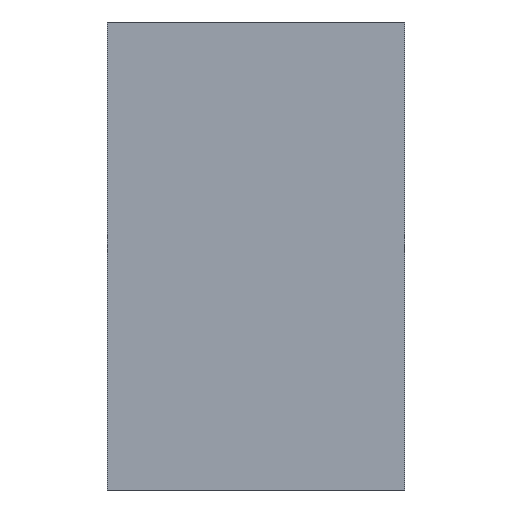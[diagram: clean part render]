
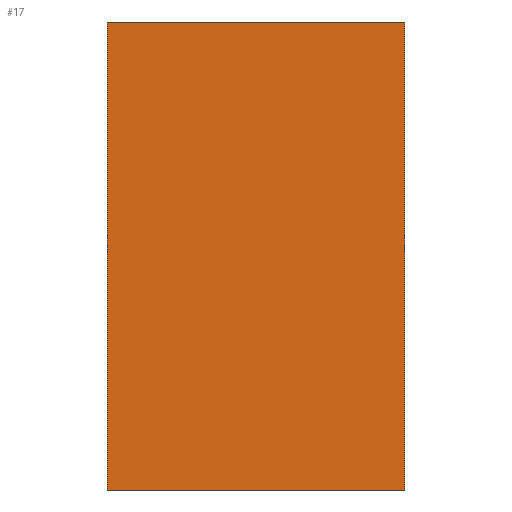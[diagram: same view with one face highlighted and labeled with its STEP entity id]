
A CAD part, left-side view. The second image highlights one B-rep face of the part: STEP entity #17.
In plain terms, the highlighted planar face has unit normal (-1, 0, 0).
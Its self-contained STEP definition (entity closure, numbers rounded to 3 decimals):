
#17 = ADVANCED_FACE('',(#18),#32,.F.);
#18 = FACE_BOUND('',#19,.F.);
#19 = EDGE_LOOP('',(#20,#55,#83,#111));
#20 = ORIENTED_EDGE('',*,*,#21,.F.);
#21 = EDGE_CURVE('',#22,#24,#26,.T.);
#22 = VERTEX_POINT('',#23);
#23 = CARTESIAN_POINT('',(-14.,-7.,-2.));
#24 = VERTEX_POINT('',#25);
#25 = CARTESIAN_POINT('',(-14.,-7.,20.));
#26 = SURFACE_CURVE('',#27,(#31,#43),.PCURVE_S1.);
#27 = LINE('',#28,#29);
#28 = CARTESIAN_POINT('',(-14.,-7.,-2.));
#29 = VECTOR('',#30,1.);
#30 = DIRECTION('',(0.,0.,1.));
#31 = PCURVE('',#32,#37);
#32 = PLANE('',#33);
#33 = AXIS2_PLACEMENT_3D('',#34,#35,#36);
#34 = CARTESIAN_POINT('',(-14.,-7.,-2.));
#35 = DIRECTION('',(1.,0.,0.));
#36 = DIRECTION('',(0.,0.,1.));
#37 = DEFINITIONAL_REPRESENTATION('',(#38),#42);
#38 = LINE('',#39,#40);
#39 = CARTESIAN_POINT('',(0.,0.));
#40 = VECTOR('',#41,1.);
#41 = DIRECTION('',(1.,0.));
#42 = ( GEOMETRIC_REPRESENTATION_CONTEXT(2) 
PARAMETRIC_REPRESENTATION_CONTEXT() REPRESENTATION_CONTEXT('2D SPACE',''
  ) );
#43 = PCURVE('',#44,#49);
#44 = PLANE('',#45);
#45 = AXIS2_PLACEMENT_3D('',#46,#47,#48);
#46 = CARTESIAN_POINT('',(-14.,-7.,-2.));
#47 = DIRECTION('',(0.,1.,0.));
#48 = DIRECTION('',(0.,0.,1.));
#49 = DEFINITIONAL_REPRESENTATION('',(#50),#54);
#50 = LINE('',#51,#52);
#51 = CARTESIAN_POINT('',(0.,0.));
#52 = VECTOR('',#53,1.);
#53 = DIRECTION('',(1.,0.));
#54 = ( GEOMETRIC_REPRESENTATION_CONTEXT(2) 
PARAMETRIC_REPRESENTATION_CONTEXT() REPRESENTATION_CONTEXT('2D SPACE',''
  ) );
#55 = ORIENTED_EDGE('',*,*,#56,.T.);
#56 = EDGE_CURVE('',#22,#57,#59,.T.);
#57 = VERTEX_POINT('',#58);
#58 = CARTESIAN_POINT('',(-14.,7.,-2.));
#59 = SURFACE_CURVE('',#60,(#64,#71),.PCURVE_S1.);
#60 = LINE('',#61,#62);
#61 = CARTESIAN_POINT('',(-14.,-7.,-2.));
#62 = VECTOR('',#63,1.);
#63 = DIRECTION('',(0.,1.,0.));
#64 = PCURVE('',#32,#65);
#65 = DEFINITIONAL_REPRESENTATION('',(#66),#70);
#66 = LINE('',#67,#68);
#67 = CARTESIAN_POINT('',(0.,0.));
#68 = VECTOR('',#69,1.);
#69 = DIRECTION('',(0.,-1.));
#70 = ( GEOMETRIC_REPRESENTATION_CONTEXT(2) 
PARAMETRIC_REPRESENTATION_CONTEXT() REPRESENTATION_CONTEXT('2D SPACE',''
  ) );
#71 = PCURVE('',#72,#77);
#72 = PLANE('',#73);
#73 = AXIS2_PLACEMENT_3D('',#74,#75,#76);
#74 = CARTESIAN_POINT('',(-14.,-7.,-2.));
#75 = DIRECTION('',(0.,0.,1.));
#76 = DIRECTION('',(1.,0.,0.));
#77 = DEFINITIONAL_REPRESENTATION('',(#78),#82);
#78 = LINE('',#79,#80);
#79 = CARTESIAN_POINT('',(0.,0.));
#80 = VECTOR('',#81,1.);
#81 = DIRECTION('',(0.,1.));
#82 = ( GEOMETRIC_REPRESENTATION_CONTEXT(2) 
PARAMETRIC_REPRESENTATION_CONTEXT() REPRESENTATION_CONTEXT('2D SPACE',''
  ) );
#83 = ORIENTED_EDGE('',*,*,#84,.F.);
#84 = EDGE_CURVE('',#85,#57,#87,.T.);
#85 = VERTEX_POINT('',#86);
#86 = CARTESIAN_POINT('',(-14.,7.,20.));
#87 = SURFACE_CURVE('',#88,(#92,#99),.PCURVE_S1.);
#88 = LINE('',#89,#90);
#89 = CARTESIAN_POINT('',(-14.,7.,20.));
#90 = VECTOR('',#91,1.);
#91 = DIRECTION('',(0.,0.,-1.));
#92 = PCURVE('',#32,#93);
#93 = DEFINITIONAL_REPRESENTATION('',(#94),#98);
#94 = LINE('',#95,#96);
#95 = CARTESIAN_POINT('',(22.,-14.));
#96 = VECTOR('',#97,1.);
#97 = DIRECTION('',(-1.,0.));
#98 = ( GEOMETRIC_REPRESENTATION_CONTEXT(2) 
PARAMETRIC_REPRESENTATION_CONTEXT() REPRESENTATION_CONTEXT('2D SPACE',''
  ) );
#99 = PCURVE('',#100,#105);
#100 = PLANE('',#101);
#101 = AXIS2_PLACEMENT_3D('',#102,#103,#104);
#102 = CARTESIAN_POINT('',(-14.,7.,-2.));
#103 = DIRECTION('',(0.,1.,0.));
#104 = DIRECTION('',(0.,0.,1.));
#105 = DEFINITIONAL_REPRESENTATION('',(#106),#110);
#106 = LINE('',#107,#108);
#107 = CARTESIAN_POINT('',(22.,0.));
#108 = VECTOR('',#109,1.);
#109 = DIRECTION('',(-1.,0.));
#110 = ( GEOMETRIC_REPRESENTATION_CONTEXT(2) 
PARAMETRIC_REPRESENTATION_CONTEXT() REPRESENTATION_CONTEXT('2D SPACE',''
  ) );
#111 = ORIENTED_EDGE('',*,*,#112,.F.);
#112 = EDGE_CURVE('',#24,#85,#113,.T.);
#113 = SURFACE_CURVE('',#114,(#118,#125),.PCURVE_S1.);
#114 = LINE('',#115,#116);
#115 = CARTESIAN_POINT('',(-14.,-7.,20.));
#116 = VECTOR('',#117,1.);
#117 = DIRECTION('',(0.,1.,0.));
#118 = PCURVE('',#32,#119);
#119 = DEFINITIONAL_REPRESENTATION('',(#120),#124);
#120 = LINE('',#121,#122);
#121 = CARTESIAN_POINT('',(22.,0.));
#122 = VECTOR('',#123,1.);
#123 = DIRECTION('',(0.,-1.));
#124 = ( GEOMETRIC_REPRESENTATION_CONTEXT(2) 
PARAMETRIC_REPRESENTATION_CONTEXT() REPRESENTATION_CONTEXT('2D SPACE',''
  ) );
#125 = PCURVE('',#126,#131);
#126 = PLANE('',#127);
#127 = AXIS2_PLACEMENT_3D('',#128,#129,#130);
#128 = CARTESIAN_POINT('',(-14.,-7.,20.));
#129 = DIRECTION('',(0.,0.,1.));
#130 = DIRECTION('',(1.,0.,0.));
#131 = DEFINITIONAL_REPRESENTATION('',(#132),#136);
#132 = LINE('',#133,#134);
#133 = CARTESIAN_POINT('',(0.,0.));
#134 = VECTOR('',#135,1.);
#135 = DIRECTION('',(0.,1.));
#136 = ( GEOMETRIC_REPRESENTATION_CONTEXT(2) 
PARAMETRIC_REPRESENTATION_CONTEXT() REPRESENTATION_CONTEXT('2D SPACE',''
  ) );
